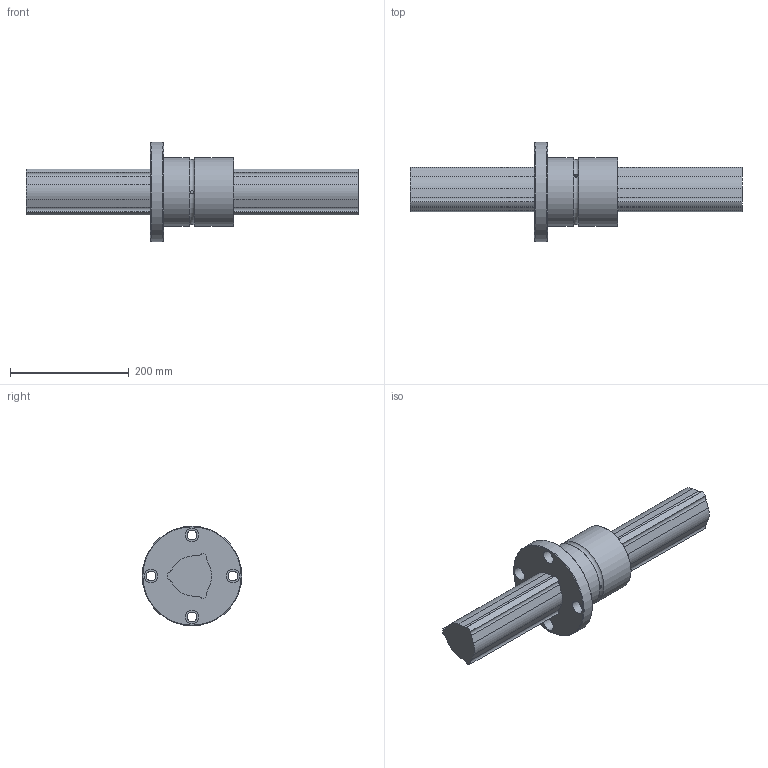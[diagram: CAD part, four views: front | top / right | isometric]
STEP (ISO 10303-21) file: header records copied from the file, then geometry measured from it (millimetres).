
FILE_DESCRIPTION(/* description */ ('STEP AP203'),/* implementation_level */ '2;1');
FILE_NAME(/* name */ 'LBF85+560L(5602100)',/* time_stamp */ '2024-05-28T03:41:04+02:00',/* author */ ('License CC BY-ND 4.0'),/* organization */ ('CADENAS'),/* preprocessor_version */ 'ST-DEVELOPER v19.3',/* originating_system */ 'PARTsolutions',/* authorisation */ ' ');
FILE_SCHEMA (('CONFIG_CONTROL_DESIGN'));
Length unit declared in the file: millimetre
Products named in the file (3): LBF85+560L(5602100); LBF851560 Spline Shaft; LBF85 Nut
Assembly tree (2 placements, depth 2):
  LBF85+560L(5602100)
    LBF851560 Spline Shaft
    LBF85 Nut
Bounding box: 560 x 168 x 168 mm (x, y, z)
Volume: 3342452.2 mm3; surface area: 274130.3 mm2
Topology: 2 solids, 2 shells, 66 faces, 164 edges, 110 vertices
Faces by surface type: cylinder 38, plane 24, torus 2, cone 2
Full cylindrical faces by diameter (mm): 5 x3, 16 x4, 23 x4, 115 x2, 168 x1
Entity records: 1978 total; most frequent: CARTESIAN_POINT 353, DIRECTION 350, ORIENTED_EDGE 278, AXIS2_PLACEMENT_3D 145, EDGE_CURVE 139, VERTEX_POINT 103, EDGE_LOOP 102, FACE_BOUND 102
